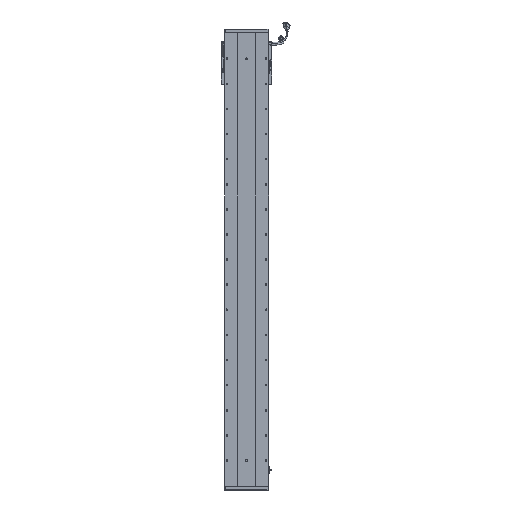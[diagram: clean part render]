
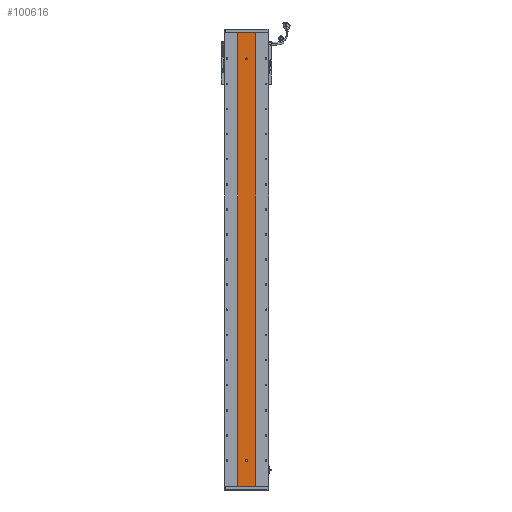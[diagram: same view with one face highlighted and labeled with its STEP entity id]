
A CAD part, front view. The second image highlights one B-rep face of the part: STEP entity #100616.
In plain terms, the highlighted planar face has unit normal (0, -1, 0).
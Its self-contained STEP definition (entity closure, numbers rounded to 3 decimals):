
#2111 = VERTEX_POINT ( 'NONE', #57253 ) ;
#2796 = EDGE_CURVE ( 'NONE', #76003, #106813, #87341, .T. ) ;
#5949 = EDGE_CURVE ( 'NONE', #23812, #59104, #79566, .T. ) ;
#7101 = DIRECTION ( 'NONE',  ( 0., 0., -1. ) ) ;
#7589 = FACE_BOUND ( 'NONE', #91505, .T. ) ;
#10371 = LINE ( 'NONE', #16886, #78625 ) ;
#12510 = EDGE_CURVE ( 'NONE', #44574, #81205, #17921, .T. ) ;
#13703 = AXIS2_PLACEMENT_3D ( 'NONE', #15787, #24379, #98944 ) ;
#15787 = CARTESIAN_POINT ( 'NONE',  ( 3280.529, 1415.701, 105. ) ) ;
#15812 = CARTESIAN_POINT ( 'NONE',  ( 3244.748, 1415.701, 0. ) ) ;
#16886 = CARTESIAN_POINT ( 'NONE',  ( 3244.748, 1415.701, 0. ) ) ;
#17921 = LINE ( 'NONE', #48724, #101743 ) ;
#22741 = ORIENTED_EDGE ( 'NONE', *, *, #31086, .T. ) ;
#23812 = VERTEX_POINT ( 'NONE', #96938 ) ;
#24379 = DIRECTION ( 'NONE',  ( 0., -1., 0. ) ) ;
#26223 = CARTESIAN_POINT ( 'NONE',  ( 3277.529, 1415.701, 105. ) ) ;
#26443 = CARTESIAN_POINT ( 'NONE',  ( 3280.529, 1415.701, 102. ) ) ;
#30755 = EDGE_CURVE ( 'NONE', #2111, #44574, #66670, .T. ) ;
#31086 = EDGE_CURVE ( 'NONE', #54522, #89566, #43391, .T. ) ;
#32068 = EDGE_CURVE ( 'NONE', #88926, #2111, #50948, .T. ) ;
#36801 = EDGE_CURVE ( 'NONE', #81205, #50599, #60348, .T. ) ;
#37272 = DIRECTION ( 'NONE',  ( 0., 0., -1. ) ) ;
#37724 = ORIENTED_EDGE ( 'NONE', *, *, #95265, .T. ) ;
#38678 = ORIENTED_EDGE ( 'NONE', *, *, #32068, .F. ) ;
#38739 = AXIS2_PLACEMENT_3D ( 'NONE', #69506, #59347, #77766 ) ;
#38802 = DIRECTION ( 'NONE',  ( 0., -1., 0. ) ) ;
#40829 = ORIENTED_EDGE ( 'NONE', *, *, #5949, .F. ) ;
#43391 = LINE ( 'NONE', #54518, #60134 ) ;
#44574 = VERTEX_POINT ( 'NONE', #26223 ) ;
#46000 = DIRECTION ( 'NONE',  ( 0., 0., -1. ) ) ;
#46914 = CARTESIAN_POINT ( 'NONE',  ( 3283.529, 1415.701, 102. ) ) ;
#47040 = CARTESIAN_POINT ( 'NONE',  ( 3316.311, 1415.701, 0. ) ) ;
#47624 = DIRECTION ( 'NONE',  ( 0., 0., -1. ) ) ;
#47818 = CARTESIAN_POINT ( 'NONE',  ( 3280.529, 1415.701, 1703.5 ) ) ;
#48724 = CARTESIAN_POINT ( 'NONE',  ( 3277.529, 1415.701, 105. ) ) ;
#49439 = CIRCLE ( 'NONE', #66059, 3. ) ;
#50599 = VERTEX_POINT ( 'NONE', #67403 ) ;
#50948 = LINE ( 'NONE', #55206, #71562 ) ;
#54518 = CARTESIAN_POINT ( 'NONE',  ( 3244.748, 1415.701, 1807. ) ) ;
#54522 = VERTEX_POINT ( 'NONE', #65942 ) ;
#55206 = CARTESIAN_POINT ( 'NONE',  ( 3283.529, 1415.701, 105. ) ) ;
#56216 = CARTESIAN_POINT ( 'NONE',  ( 3316.311, 1415.701, 1807. ) ) ;
#57253 = CARTESIAN_POINT ( 'NONE',  ( 3283.529, 1415.701, 105. ) ) ;
#57627 = VECTOR ( 'NONE', #47624, 1000. ) ;
#59104 = VERTEX_POINT ( 'NONE', #47040 ) ;
#59347 = DIRECTION ( 'NONE',  ( 0., 1., 0. ) ) ;
#59935 = DIRECTION ( 'NONE',  ( 0., -1., 0. ) ) ;
#60134 = VECTOR ( 'NONE', #37272, 1000. ) ;
#60348 = CIRCLE ( 'NONE', #90601, 3. ) ;
#64003 = DIRECTION ( 'NONE',  ( 0., 0., -1. ) ) ;
#64740 = LINE ( 'NONE', #80823, #95635 ) ;
#65268 = DIRECTION ( 'NONE',  ( 0., 0., -1. ) ) ;
#65942 = CARTESIAN_POINT ( 'NONE',  ( 3244.748, 1415.701, 1807. ) ) ;
#66059 = AXIS2_PLACEMENT_3D ( 'NONE', #102951, #79126, #46000 ) ;
#66670 = CIRCLE ( 'NONE', #13703, 3. ) ;
#67403 = CARTESIAN_POINT ( 'NONE',  ( 3280.529, 1415.701, 99. ) ) ;
#67584 = ORIENTED_EDGE ( 'NONE', *, *, #72094, .F. ) ;
#67987 = ORIENTED_EDGE ( 'NONE', *, *, #104838, .F. ) ;
#68263 = DIRECTION ( 'NONE',  ( 0., 0., -1. ) ) ;
#69506 = CARTESIAN_POINT ( 'NONE',  ( 3244.748, 1415.701, 1807. ) ) ;
#71511 = EDGE_LOOP ( 'NONE', ( #37724, #40829, #99759, #22741 ) ) ;
#71562 = VECTOR ( 'NONE', #72182, 1000. ) ;
#72094 = EDGE_CURVE ( 'NONE', #50599, #88926, #97094, .T. ) ;
#72182 = DIRECTION ( 'NONE',  ( 0., 0., 1. ) ) ;
#72588 = AXIS2_PLACEMENT_3D ( 'NONE', #47818, #38802, #64003 ) ;
#75350 = AXIS2_PLACEMENT_3D ( 'NONE', #106146, #80845, #7101 ) ;
#75744 = FACE_OUTER_BOUND ( 'NONE', #71511, .T. ) ;
#75967 = PLANE ( 'NONE',  #38739 ) ;
#76003 = VERTEX_POINT ( 'NONE', #94340 ) ;
#77766 = DIRECTION ( 'NONE',  ( 0., 0., 1. ) ) ;
#78418 = FACE_BOUND ( 'NONE', #99950, .T. ) ;
#78625 = VECTOR ( 'NONE', #92399, 1000. ) ;
#79126 = DIRECTION ( 'NONE',  ( 0., -1., 0. ) ) ;
#79566 = LINE ( 'NONE', #56216, #57627 ) ;
#80823 = CARTESIAN_POINT ( 'NONE',  ( 3244.748, 1415.701, 1807. ) ) ;
#80845 = DIRECTION ( 'NONE',  ( 0., -1., 0. ) ) ;
#81205 = VERTEX_POINT ( 'NONE', #96438 ) ;
#83658 = ORIENTED_EDGE ( 'NONE', *, *, #36801, .F. ) ;
#86365 = CARTESIAN_POINT ( 'NONE',  ( 3280.529, 1415.701, 1700.5 ) ) ;
#87341 = CIRCLE ( 'NONE', #72588, 3. ) ;
#88926 = VERTEX_POINT ( 'NONE', #46914 ) ;
#89566 = VERTEX_POINT ( 'NONE', #15812 ) ;
#90601 = AXIS2_PLACEMENT_3D ( 'NONE', #26443, #59935, #68263 ) ;
#91505 = EDGE_LOOP ( 'NONE', ( #83658, #97781, #91977, #38678, #67584 ) ) ;
#91977 = ORIENTED_EDGE ( 'NONE', *, *, #30755, .F. ) ;
#92399 = DIRECTION ( 'NONE',  ( 1., 0., 0. ) ) ;
#92781 = EDGE_CURVE ( 'NONE', #54522, #23812, #64740, .T. ) ;
#94340 = CARTESIAN_POINT ( 'NONE',  ( 3280.529, 1415.701, 1706.5 ) ) ;
#95265 = EDGE_CURVE ( 'NONE', #89566, #59104, #10371, .T. ) ;
#95635 = VECTOR ( 'NONE', #105763, 1000. ) ;
#96438 = CARTESIAN_POINT ( 'NONE',  ( 3277.529, 1415.701, 102. ) ) ;
#96938 = CARTESIAN_POINT ( 'NONE',  ( 3316.311, 1415.701, 1807. ) ) ;
#97094 = CIRCLE ( 'NONE', #75350, 3. ) ;
#97781 = ORIENTED_EDGE ( 'NONE', *, *, #12510, .F. ) ;
#98944 = DIRECTION ( 'NONE',  ( 0., 0., -1. ) ) ;
#99759 = ORIENTED_EDGE ( 'NONE', *, *, #92781, .F. ) ;
#99950 = EDGE_LOOP ( 'NONE', ( #67987, #104809 ) ) ;
#100616 = ADVANCED_FACE ( 'NONE', ( #7589, #78418, #75744 ), #75967, .F. ) ;
#101743 = VECTOR ( 'NONE', #65268, 1000. ) ;
#102951 = CARTESIAN_POINT ( 'NONE',  ( 3280.529, 1415.701, 1703.5 ) ) ;
#104809 = ORIENTED_EDGE ( 'NONE', *, *, #2796, .F. ) ;
#104838 = EDGE_CURVE ( 'NONE', #106813, #76003, #49439, .T. ) ;
#105763 = DIRECTION ( 'NONE',  ( 1., 0., 0. ) ) ;
#106146 = CARTESIAN_POINT ( 'NONE',  ( 3280.529, 1415.701, 102. ) ) ;
#106813 = VERTEX_POINT ( 'NONE', #86365 ) ;
